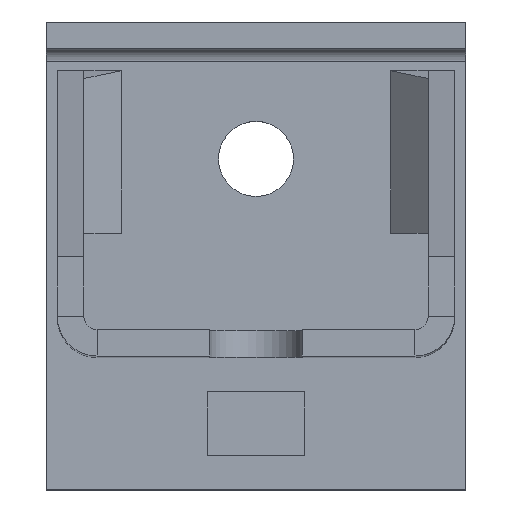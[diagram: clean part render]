
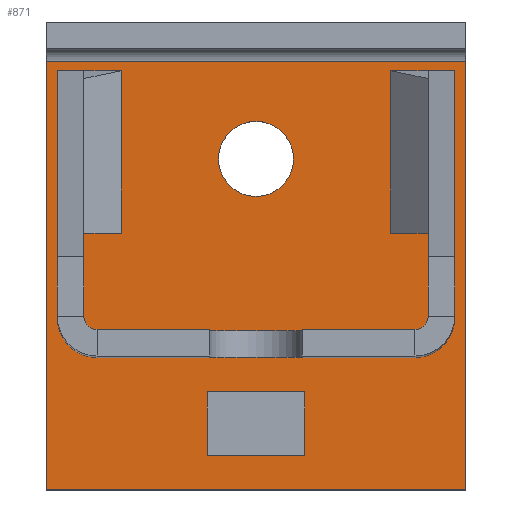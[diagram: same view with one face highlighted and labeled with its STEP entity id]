
A CAD part, top view. The second image highlights one B-rep face of the part: STEP entity #871.
In plain terms, the highlighted planar face has unit normal (0, 0, 1).
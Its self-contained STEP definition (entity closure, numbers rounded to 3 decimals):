
#24=FACE_BOUND('',#147,.T.);
#25=FACE_BOUND('',#148,.T.);
#40=CIRCLE('',#939,8.5);
#89=FACE_OUTER_BOUND('',#146,.T.);
#146=EDGE_LOOP('',(#651,#652,#653,#654));
#147=EDGE_LOOP('',(#655,#656,#657,#658));
#148=EDGE_LOOP('',(#659));
#202=LINE('',#1292,#302);
#206=LINE('',#1300,#306);
#209=LINE('',#1306,#309);
#212=LINE('',#1311,#312);
#219=LINE('',#1334,#319);
#222=LINE('',#1340,#322);
#227=LINE('',#1352,#327);
#228=LINE('',#1353,#328);
#302=VECTOR('',#1033,14.5);
#306=VECTOR('',#1039,22.);
#309=VECTOR('',#1044,14.5);
#312=VECTOR('',#1049,22.);
#319=VECTOR('',#1072,95.);
#322=VECTOR('',#1079,97.);
#327=VECTOR('',#1090,97.);
#328=VECTOR('',#1091,95.);
#396=VERTEX_POINT('',#1290);
#397=VERTEX_POINT('',#1291);
#400=VERTEX_POINT('',#1299);
#402=VERTEX_POINT('',#1305);
#405=VERTEX_POINT('',#1316);
#408=VERTEX_POINT('',#1324);
#412=VERTEX_POINT('',#1339);
#416=VERTEX_POINT('',#1351);
#417=VERTEX_POINT('',#1354);
#472=EDGE_CURVE('',#396,#397,#202,.T.);
#476=EDGE_CURVE('',#400,#396,#206,.T.);
#479=EDGE_CURVE('',#402,#400,#209,.T.);
#482=EDGE_CURVE('',#397,#402,#212,.T.);
#493=EDGE_CURVE('',#408,#405,#219,.T.);
#496=EDGE_CURVE('',#408,#412,#222,.T.);
#502=EDGE_CURVE('',#416,#405,#227,.T.);
#503=EDGE_CURVE('',#412,#416,#228,.T.);
#504=EDGE_CURVE('',#417,#417,#40,.T.);
#651=ORIENTED_EDGE('',*,*,#493,.T.);
#652=ORIENTED_EDGE('',*,*,#502,.F.);
#653=ORIENTED_EDGE('',*,*,#503,.F.);
#654=ORIENTED_EDGE('',*,*,#496,.F.);
#655=ORIENTED_EDGE('',*,*,#472,.T.);
#656=ORIENTED_EDGE('',*,*,#482,.T.);
#657=ORIENTED_EDGE('',*,*,#479,.T.);
#658=ORIENTED_EDGE('',*,*,#476,.T.);
#659=ORIENTED_EDGE('',*,*,#504,.T.);
#821=PLANE('',#938);
#871=ADVANCED_FACE('',(#89,#24,#25),#821,.T.);
#938=AXIS2_PLACEMENT_3D('',#1350,#1088,#1089);
#939=AXIS2_PLACEMENT_3D('',#1355,#1092,#1093);
#1033=DIRECTION('',(0.,-1.,0.));
#1039=DIRECTION('',(1.,0.,0.));
#1044=DIRECTION('',(0.,1.,0.));
#1049=DIRECTION('',(-1.,0.,0.));
#1072=DIRECTION('',(-1.,0.,0.));
#1079=DIRECTION('',(0.,-1.,0.));
#1088=DIRECTION('center_axis',(0.,0.,1.));
#1089=DIRECTION('ref_axis',(1.,0.,0.));
#1090=DIRECTION('',(0.,1.,0.));
#1091=DIRECTION('',(-1.,0.,0.));
#1092=DIRECTION('center_axis',(0.,0.,-1.));
#1093=DIRECTION('ref_axis',(-1.,0.,0.));
#1290=CARTESIAN_POINT('',(11.,-52.75,6.));
#1291=CARTESIAN_POINT('',(11.,-67.25,6.));
#1292=CARTESIAN_POINT('',(11.,-34.625,6.));
#1299=CARTESIAN_POINT('',(-11.,-52.75,6.));
#1300=CARTESIAN_POINT('',(-5.5,-52.75,6.));
#1305=CARTESIAN_POINT('',(-11.,-67.25,6.));
#1306=CARTESIAN_POINT('',(-11.,-41.875,6.));
#1311=CARTESIAN_POINT('',(5.5,-67.25,6.));
#1316=CARTESIAN_POINT('',(-47.5,22.,6.));
#1324=CARTESIAN_POINT('',(47.5,22.,6.));
#1334=CARTESIAN_POINT('',(23.75,22.,6.));
#1339=CARTESIAN_POINT('',(47.5,-75.,6.));
#1340=CARTESIAN_POINT('',(47.5,42.,6.));
#1350=CARTESIAN_POINT('Origin',(0.,-16.5,6.));
#1351=CARTESIAN_POINT('',(-47.5,-75.,6.));
#1352=CARTESIAN_POINT('',(-47.5,-75.,6.));
#1353=CARTESIAN_POINT('',(47.5,-75.,6.));
#1354=CARTESIAN_POINT('',(8.5,0.,6.));
#1355=CARTESIAN_POINT('Origin',(0.,0.,6.));
